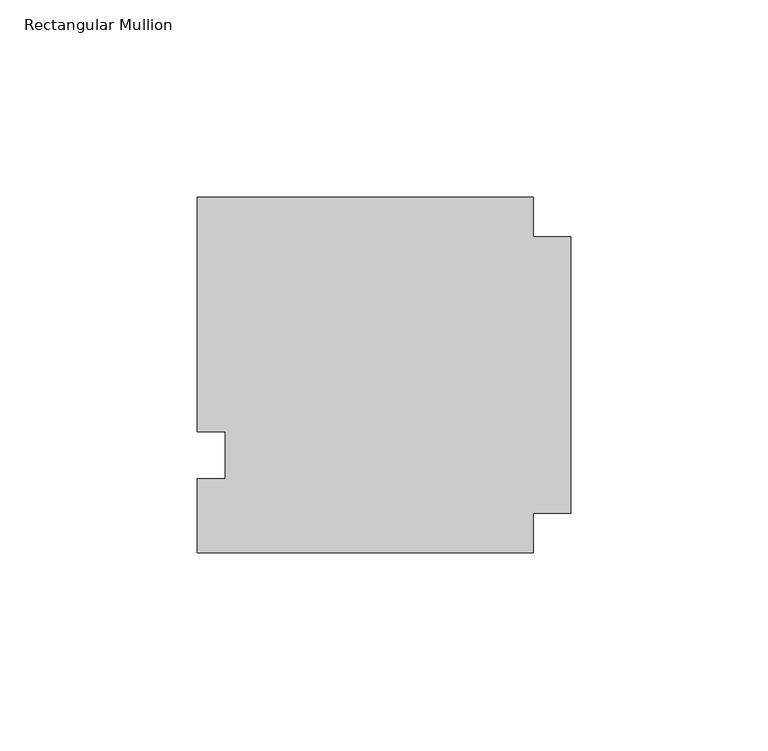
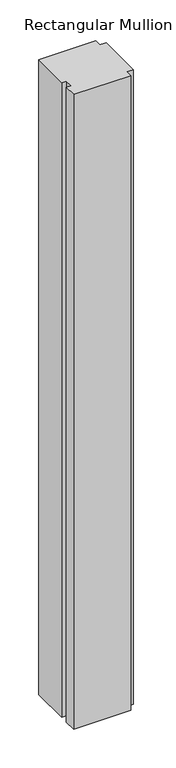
"""IFC4 building model written with IfcOpenShell, lengths in millimetres: member geometry, Rectangular Mullion : Klein_Nature_Profile-Top-Panel."""

import ifcopenshell
import ifcopenshell.guid

model = None  # the IFC model being written
_history = None  # IfcOwnerHistory: only IFC2X3 demands one
_inside = {}  # id of a spatial element -> (the spatial element, [elements in it])
_under = {}  # id of a project, library or spatial element -> (it, [spatial elements below it])
_declared = {}  # id of a project -> (the project, [libraries it declares])
_typed = {}  # id of a type object -> (the type object, [elements of that type])
_made_of = {}  # id of a material, layer set ... -> (it, [elements and type objects made of it])


def new_model(schema):
    """Start an empty IFC model of exactly this schema.

    Asked for "IFC4X3", IfcOpenShell would pick the latest addendum, in which some entities
    have other attributes; the version numbers below select the first issue.
    IFC2X3 requires an IfcOwnerHistory on every rooted entity: one is made here for all.
    """
    global model, _history
    if schema == "IFC4X3":
        model = ifcopenshell.file(schema_version=(4, 3, 0, 0))
    else:
        model = ifcopenshell.file(schema=schema)
    _inside.clear()
    _under.clear()
    _declared.clear()
    _typed.clear()
    _made_of.clear()
    _history = None
    if model.schema == "IFC2X3":
        org = make("IfcOrganization", Name="unknown")
        user = make(
            "IfcPersonAndOrganization",
            ThePerson=make("IfcPerson", FamilyName="unknown"),
            TheOrganization=org,
        )
        app = make(
            "IfcApplication",
            ApplicationDeveloper=org,
            Version="unknown",
            ApplicationFullName="unknown",
            ApplicationIdentifier="unknown",
        )
        _history = make(
            "IfcOwnerHistory",
            OwningUser=user,
            OwningApplication=app,
            ChangeAction="ADDED",
            CreationDate=0,
        )
    return model


def make(cls, **values):
    """One entity of the class cls with the attributes given. An attribute that is None is left unset."""
    return model.create_entity(
        cls, **{name: value for name, value in values.items() if value is not None}
    )


def rooted(cls, **values):
    """An entity with a GlobalId (a new one), such as an element, a storey or a relation."""
    return make(cls, GlobalId=ifcopenshell.guid.new(), OwnerHistory=_history, **values)


def si_unit(unit_type, name, prefix=None):
    """IfcSIUnit, for example si_unit("LENGTHUNIT", "METRE", prefix="MILLI")."""
    return make("IfcSIUnit", UnitType=unit_type, Prefix=prefix, Name=name)


def assignment(units):
    """IfcUnitAssignment: the units of a project."""
    return None if units is None else make("IfcUnitAssignment", Units=units)


def point(xyz):
    """IfcCartesianPoint."""
    return None if xyz is None else make("IfcCartesianPoint", Coordinates=xyz)


def direction(xyz):
    """IfcDirection."""
    return None if xyz is None else make("IfcDirection", DirectionRatios=xyz)


def frame(location, z_axis=None, x_axis=None):
    """IfcAxis2Placement3D, a coordinate frame: its origin and axes. An axis left out is left unset."""
    return make(
        "IfcAxis2Placement3D",
        Location=point(location),
        Axis=direction(z_axis),
        RefDirection=direction(x_axis),
    )


def origin():
    """The frame at (0, 0, 0) with its axes left unset."""
    return frame((0.0, 0.0, 0.0))


def place(relative_to, where):
    """IfcLocalPlacement: puts the frame where relative to a parent placement (None: the world)."""
    return make(
        "IfcLocalPlacement", PlacementRelTo=relative_to, RelativePlacement=where
    )


def context(
    kind, dimensions, precision=None, world=None, true_north=None, identifier=None
):
    """IfcGeometricRepresentationContext, for example the 3D "Model" context."""
    return make(
        "IfcGeometricRepresentationContext",
        ContextIdentifier=identifier,
        ContextType=kind,
        CoordinateSpaceDimension=dimensions,
        Precision=precision,
        WorldCoordinateSystem=world,
        TrueNorth=true_north,
    )


def project(units=None, contexts=None):
    """IfcProject with its units and contexts."""
    return rooted(
        "IfcProject",
        Name="project",
        RepresentationContexts=contexts,
        UnitsInContext=assignment(units),
    )


def spatial(cls, under=None, at=None, **own):
    """A site, building, storey or space (cls), placed at a placement, below another one or the project."""
    s = rooted(cls, ObjectPlacement=at, **own)
    if under is not None:
        _under.setdefault(under.id(), (under, []))[1].append(s)
    return s


def polyline(points):
    """IfcPolyline through the points."""
    return make("IfcPolyline", Points=[point(p) for p in points])


def outline(outer, holes=None, kind="AREA"):
    """IfcArbitraryClosedProfileDef: a profile drawn as a closed curve; with holes, ...WithVoids."""
    if holes is None:
        return make("IfcArbitraryClosedProfileDef", ProfileType=kind, OuterCurve=outer)
    return make(
        "IfcArbitraryProfileDefWithVoids",
        ProfileType=kind,
        OuterCurve=outer,
        InnerCurves=holes,
    )


def extrude(swept, where, along, depth):
    """IfcExtrudedAreaSolid: the profile swept, set in the frame where, extruded along a direction by depth."""
    return make(
        "IfcExtrudedAreaSolid",
        SweptArea=swept,
        Position=where,
        ExtrudedDirection=direction(along),
        Depth=depth,
    )


def shape(context_of_items, identifier, shape_type, items):
    """IfcShapeRepresentation: the items that make up one representation, for example the "Body"."""
    return make(
        "IfcShapeRepresentation",
        ContextOfItems=context_of_items,
        RepresentationIdentifier=identifier,
        RepresentationType=shape_type,
        Items=items,
    )


def source(mapping_origin, context_of_items, identifier, shape_type, items):
    """IfcRepresentationMap: a shape defined once, which mapped items show again and again."""
    return make(
        "IfcRepresentationMap",
        MappingOrigin=mapping_origin,
        MappedRepresentation=shape(context_of_items, identifier, shape_type, items),
    )


def transform(
    local_origin,
    x_axis=None,
    y_axis=None,
    z_axis=None,
    scale=None,
    scale2=None,
    scale3=None,
    uniform=True,
):
    """IfcCartesianTransformationOperator3D, or its non-uniform kind. x_axis, y_axis, z_axis: its Axis1, 2, 3."""
    if uniform:
        return make(
            "IfcCartesianTransformationOperator3D",
            Axis1=direction(x_axis),
            Axis2=direction(y_axis),
            LocalOrigin=point(local_origin),
            Scale=scale,
            Axis3=direction(z_axis),
        )
    return make(
        "IfcCartesianTransformationOperator3DnonUniform",
        Axis1=direction(x_axis),
        Axis2=direction(y_axis),
        LocalOrigin=point(local_origin),
        Scale=scale,
        Axis3=direction(z_axis),
        Scale2=scale2,
        Scale3=scale3,
    )


def mapped(mapping_source, mapping_target):
    """IfcMappedItem: shows the shape of a source again, moved by a transform."""
    return make(
        "IfcMappedItem", MappingSource=mapping_source, MappingTarget=mapping_target
    )


def made_of(thing, what):
    """Note that an element or type object is made of a material, layer set ...; save() writes the relation."""
    if what is not None:
        _made_of.setdefault(what.id(), (what, []))[1].append(thing)
    return thing


def element(
    cls,
    number,
    at=None,
    inside=None,
    cuts=None,
    type_object=None,
    material=None,
    context=None,
    identifier="Body",
    shape_type=None,
    held_by="IfcProductDefinitionShape",
    body=None,
    shapes=None,
    **own,
):
    """One element of the class cls, such as IfcWall. Its Tag is "e" and its number.

    at: its placement. inside: the storey or other place that contains it. cuts: it is an
    opening in that element (IfcRelVoidsElement). A single representation is given by context,
    identifier, shape_type and body (its items); several are given by shapes. held_by: the class
    of the entity that holds the representations. save() writes the other relations.
    """
    e = rooted(cls, Tag="e%d" % number, ObjectPlacement=at, **own)
    if body is not None:
        shapes = [shape(context, identifier, shape_type, body)]
    if shapes is not None:
        e.Representation = make(held_by, Representations=shapes)
    if inside is not None:
        _inside.setdefault(inside.id(), (inside, []))[1].append(e)
    if cuts is not None:
        rooted(
            "IfcRelVoidsElement", RelatingBuildingElement=cuts, RelatedOpeningElement=e
        )
    if type_object is not None:
        _typed.setdefault(type_object.id(), (type_object, []))[1].append(e)
    return made_of(e, material)


def aggregate(whole, parts):
    """IfcRelAggregates: a whole, such as a stair, and the parts it consists of."""
    return rooted("IfcRelAggregates", RelatingObject=whole, RelatedObjects=parts)


def save(model, path):
    """Write the relations noted so far, then the file.

    IfcRelAggregates (storeys below a building ...), IfcRelContainedInSpatialStructure (elements
    in a storey), IfcRelDefinesByType, IfcRelAssociatesMaterial and IfcRelDeclares: one each for
    every whole, place, type object, material and project.
    """
    for whole, parts in _under.values():
        aggregate(whole, parts)
    for where, things in _inside.values():
        rooted(
            "IfcRelContainedInSpatialStructure",
            RelatedElements=things,
            RelatingStructure=where,
        )
    for kind, things in _typed.values():
        rooted("IfcRelDefinesByType", RelatedObjects=things, RelatingType=kind)
    for what, things in _made_of.values():
        rooted("IfcRelAssociatesMaterial", RelatedObjects=things, RelatingMaterial=what)
    for by, libraries in _declared.values():
        rooted("IfcRelDeclares", RelatingContext=by, RelatedDefinitions=libraries)
    model.write(path)


def rectangular_mullion_c1fcce1e(model_context):
    return source(origin(), model_context, "Body", "SweptSolid", [
        extrude(outline(polyline([(-94.4999952, 45.0000043), (-9.4999995, 44.9999981), (-9.5000002, 34.9999983), (0.0, 34.9999976), (-5.1e-06, -34.9999976), (-9.5000054, -34.9999969), (-9.5000061, -45.0000019), (-94.5000018, -44.9999957), (-94.5000005, -26.3000051), (-87.4999966, -26.3000046), (-87.4999975, -14.3000046), (-94.4999996, -14.3000051), (-94.4999952, 45.0000043)])), frame((0.0, 0.0, -999.9999998), z_axis=(0.0, 0.0, 1.0), x_axis=(1.0, 0.0, 0.0)), (0.0, 0.0, 1.0), 999.9999998),
    ])


if __name__ == "__main__":
    model = new_model("IFC4")
    model_context = context("Model", 3, world=origin())
    ifc_project = project(units=[si_unit("LENGTHUNIT", "METRE", prefix="MILLI")], contexts=[model_context])
    site = spatial("IfcSite", under=ifc_project)
    building = spatial("IfcBuilding", under=site)
    placement = place(None, origin())
    rectangular_mullion_shape = rectangular_mullion_c1fcce1e(model_context)
    element("IfcMember", 1, ObjectType="Rectangular Mullion : Klein_Nature_Profile-Top-Panel", at=placement, inside=building, context=model_context, shape_type="MappedRepresentation", body=[
        mapped(rectangular_mullion_shape, transform((0.0, 0.0, 0.0), x_axis=(1.0, 0.0, 0.0), y_axis=(0.0, 1.0, 0.0), z_axis=(0.0, 0.0, 1.0))),
    ])
    save(model, "model.ifc")
